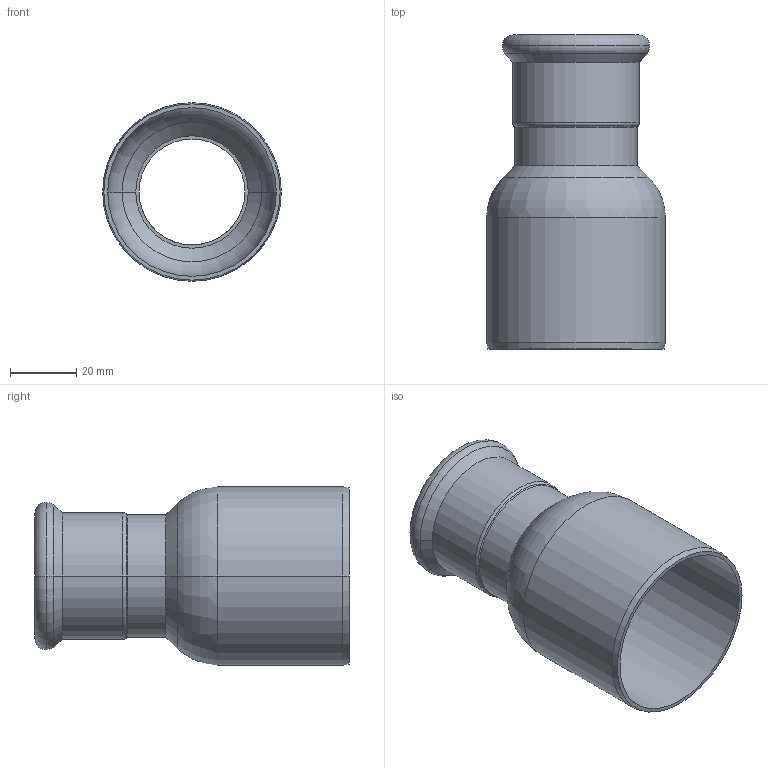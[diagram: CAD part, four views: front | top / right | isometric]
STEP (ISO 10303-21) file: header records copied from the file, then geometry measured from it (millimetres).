
FILE_DESCRIPTION(('CoCreate Modeling STEP Export'),'2;1');
FILE_NAME('C1407 35x54.stp','2014-11-07T16:35:38',(''),(''),'CoCreate Modeling STEP processor for AP214 (Solid Model)','CoCreate Modeling 17.00A 17-Jun-2010 (C) Parametric Technology GmbH','');
FILE_SCHEMA(('AUTOMOTIVE_DESIGN { 1 0 10303 214 1 1 1 1 }'));
Length unit declared in the file: millimetre
Products named in the file (2): C1407_35x54
Assembly tree (1 placements, depth 2):
  C1407_35x54
    C1407_35x54
Bounding box: 54 x 95 x 54 mm (x, y, z)
Volume: 23640.5 mm3; surface area: 28612.5 mm2
Topology: 1 solids, 1 shells, 38 faces, 77 edges, 43 vertices
Faces by surface type: cylinder 14, cone 10, torus 10, plane 4
Entity records: 843 total; most frequent: ORIENTED_EDGE 154, DIRECTION 130, CARTESIAN_POINT 120, EDGE_CURVE 77, AXIS2_PLACEMENT_3D 53, VERTEX_POINT 43, EDGE_LOOP 42, FACE_OUTER_BOUND 38
